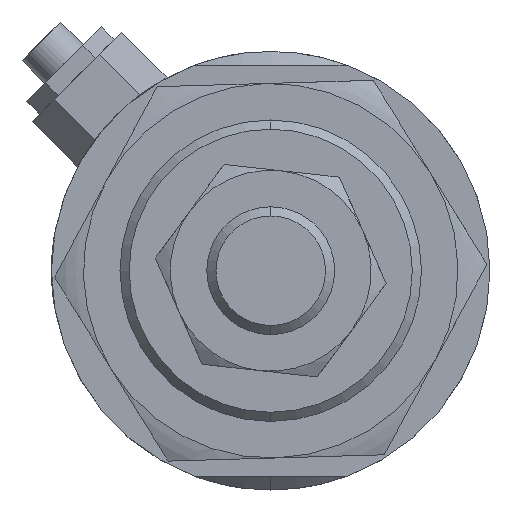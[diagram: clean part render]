
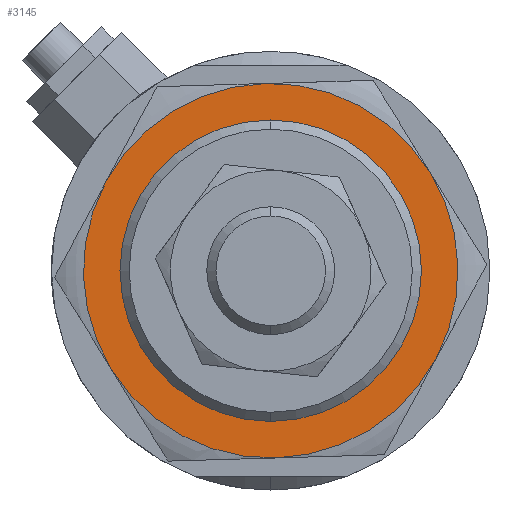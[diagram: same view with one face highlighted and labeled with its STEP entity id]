
A CAD part, left-side view. The second image highlights one B-rep face of the part: STEP entity #3145.
In plain terms, the highlighted planar face has unit normal (-1, 0, 0) as drawn and (0, 0, -1) by its records, which use the part's own axes.
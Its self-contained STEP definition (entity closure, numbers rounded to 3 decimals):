
#48 = EDGE_LOOP ( 'NONE', ( #2245, #3217, #3756, #2822, #3432, #1752 ) ) ;
#118 = AXIS2_PLACEMENT_3D ( 'NONE', #4402, #2876, #781 ) ;
#136 = PLANE ( 'NONE',  #2441 ) ;
#205 = DIRECTION ( 'NONE',  ( 0., 0., 1. ) ) ;
#238 = CIRCLE ( 'NONE', #292, 20.5 ) ;
#241 = CARTESIAN_POINT ( 'NONE',  ( 20.5, 0., -5.5 ) ) ;
#264 = CARTESIAN_POINT ( 'NONE',  ( -10.25, 17.754, -5.5 ) ) ;
#276 = CARTESIAN_POINT ( 'NONE',  ( 0., 0., -5.5 ) ) ;
#292 = AXIS2_PLACEMENT_3D ( 'NONE', #3306, #1092, #3083 ) ;
#481 = DIRECTION ( 'NONE',  ( 1., 0., 0. ) ) ;
#522 = EDGE_CURVE ( 'NONE', #1464, #4372, #238, .T. ) ;
#551 = EDGE_CURVE ( 'NONE', #3531, #997, #1250, .T. ) ;
#684 = CARTESIAN_POINT ( 'NONE',  ( -15.5, 0., -5.5 ) ) ;
#722 = AXIS2_PLACEMENT_3D ( 'NONE', #2752, #3332, #3035 ) ;
#770 = CARTESIAN_POINT ( 'NONE',  ( -10.25, -17.754, -5.5 ) ) ;
#774 = CIRCLE ( 'NONE', #3537, 20.5 ) ;
#781 = DIRECTION ( 'NONE',  ( 1., 0., 0. ) ) ;
#849 = FACE_OUTER_BOUND ( 'NONE', #48, .T. ) ;
#855 = CARTESIAN_POINT ( 'NONE',  ( 0., 0., -5.5 ) ) ;
#874 = AXIS2_PLACEMENT_3D ( 'NONE', #3973, #3671, #481 ) ;
#997 = VERTEX_POINT ( 'NONE', #684 ) ;
#1092 = DIRECTION ( 'NONE',  ( 0., 0., 1. ) ) ;
#1165 = AXIS2_PLACEMENT_3D ( 'NONE', #855, #1324, #3544 ) ;
#1192 = EDGE_CURVE ( 'NONE', #1265, #2419, #4279, .T. ) ;
#1241 = CARTESIAN_POINT ( 'NONE',  ( -20.5, 0., -5.5 ) ) ;
#1250 = CIRCLE ( 'NONE', #1165, 15.5 ) ;
#1265 = VERTEX_POINT ( 'NONE', #1241 ) ;
#1311 = ORIENTED_EDGE ( 'NONE', *, *, #3095, .T. ) ;
#1312 = EDGE_CURVE ( 'NONE', #2419, #3068, #1944, .T. ) ;
#1324 = DIRECTION ( 'NONE',  ( 0., 0., 1. ) ) ;
#1464 = VERTEX_POINT ( 'NONE', #4094 ) ;
#1554 = FACE_BOUND ( 'NONE', #4667, .T. ) ;
#1752 = ORIENTED_EDGE ( 'NONE', *, *, #522, .F. ) ;
#1809 = AXIS2_PLACEMENT_3D ( 'NONE', #276, #2933, #4156 ) ;
#1927 = ORIENTED_EDGE ( 'NONE', *, *, #551, .T. ) ;
#1944 = CIRCLE ( 'NONE', #118, 20.5 ) ;
#2183 = CIRCLE ( 'NONE', #3980, 20.5 ) ;
#2245 = ORIENTED_EDGE ( 'NONE', *, *, #2437, .F. ) ;
#2260 = VERTEX_POINT ( 'NONE', #241 ) ;
#2419 = VERTEX_POINT ( 'NONE', #770 ) ;
#2437 = EDGE_CURVE ( 'NONE', #2260, #1464, #774, .T. ) ;
#2441 = AXIS2_PLACEMENT_3D ( 'NONE', #3534, #205, #2633 ) ;
#2633 = DIRECTION ( 'NONE',  ( 1., 0., 0. ) ) ;
#2685 = DIRECTION ( 'NONE',  ( 1., 0., 0. ) ) ;
#2752 = CARTESIAN_POINT ( 'NONE',  ( 0., 0., -5.5 ) ) ;
#2801 = CIRCLE ( 'NONE', #722, 20.5 ) ;
#2822 = ORIENTED_EDGE ( 'NONE', *, *, #1192, .F. ) ;
#2837 = CARTESIAN_POINT ( 'NONE',  ( 0., 0., -5.5 ) ) ;
#2876 = DIRECTION ( 'NONE',  ( 0., 0., 1. ) ) ;
#2905 = DIRECTION ( 'NONE',  ( 0., 0., 1. ) ) ;
#2933 = DIRECTION ( 'NONE',  ( 0., 0., 1. ) ) ;
#2976 = EDGE_CURVE ( 'NONE', #3068, #2260, #2183, .T. ) ;
#3035 = DIRECTION ( 'NONE',  ( 1., 0., 0. ) ) ;
#3059 = CARTESIAN_POINT ( 'NONE',  ( 15.5, 0., -5.5 ) ) ;
#3068 = VERTEX_POINT ( 'NONE', #3520 ) ;
#3083 = DIRECTION ( 'NONE',  ( 1., 0., 0. ) ) ;
#3095 = EDGE_CURVE ( 'NONE', #997, #3531, #3801, .T. ) ;
#3114 = DIRECTION ( 'NONE',  ( 1., 0., 0. ) ) ;
#3145 = ADVANCED_FACE ( 'NONE', ( #1554, #849 ), #136, .F. ) ;
#3217 = ORIENTED_EDGE ( 'NONE', *, *, #2976, .F. ) ;
#3306 = CARTESIAN_POINT ( 'NONE',  ( 0., 0., -5.5 ) ) ;
#3332 = DIRECTION ( 'NONE',  ( 0., 0., 1. ) ) ;
#3345 = CARTESIAN_POINT ( 'NONE',  ( 0., 0., -5.5 ) ) ;
#3432 = ORIENTED_EDGE ( 'NONE', *, *, #4311, .F. ) ;
#3520 = CARTESIAN_POINT ( 'NONE',  ( 10.25, -17.754, -5.5 ) ) ;
#3531 = VERTEX_POINT ( 'NONE', #3059 ) ;
#3534 = CARTESIAN_POINT ( 'NONE',  ( 0., 0., -5.5 ) ) ;
#3537 = AXIS2_PLACEMENT_3D ( 'NONE', #3345, #4131, #2685 ) ;
#3544 = DIRECTION ( 'NONE',  ( 1., 0., 0. ) ) ;
#3671 = DIRECTION ( 'NONE',  ( 0., 0., 1. ) ) ;
#3756 = ORIENTED_EDGE ( 'NONE', *, *, #1312, .F. ) ;
#3801 = CIRCLE ( 'NONE', #874, 15.5 ) ;
#3973 = CARTESIAN_POINT ( 'NONE',  ( 0., 0., -5.5 ) ) ;
#3980 = AXIS2_PLACEMENT_3D ( 'NONE', #2837, #2905, #3114 ) ;
#4094 = CARTESIAN_POINT ( 'NONE',  ( 10.25, 17.754, -5.5 ) ) ;
#4131 = DIRECTION ( 'NONE',  ( 0., 0., 1. ) ) ;
#4156 = DIRECTION ( 'NONE',  ( 1., 0., 0. ) ) ;
#4279 = CIRCLE ( 'NONE', #1809, 20.5 ) ;
#4311 = EDGE_CURVE ( 'NONE', #4372, #1265, #2801, .T. ) ;
#4372 = VERTEX_POINT ( 'NONE', #264 ) ;
#4402 = CARTESIAN_POINT ( 'NONE',  ( 0., 0., -5.5 ) ) ;
#4667 = EDGE_LOOP ( 'NONE', ( #1927, #1311 ) ) ;
